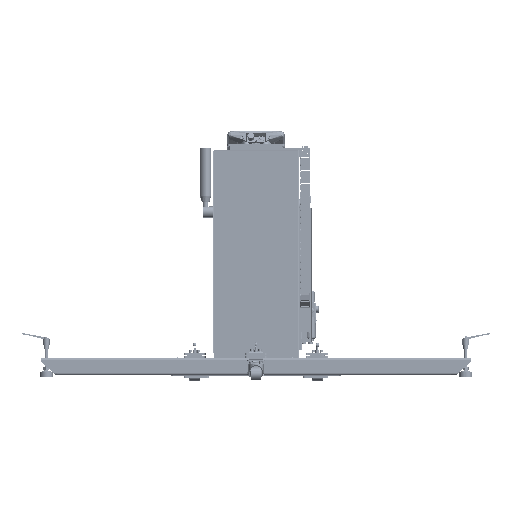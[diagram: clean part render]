
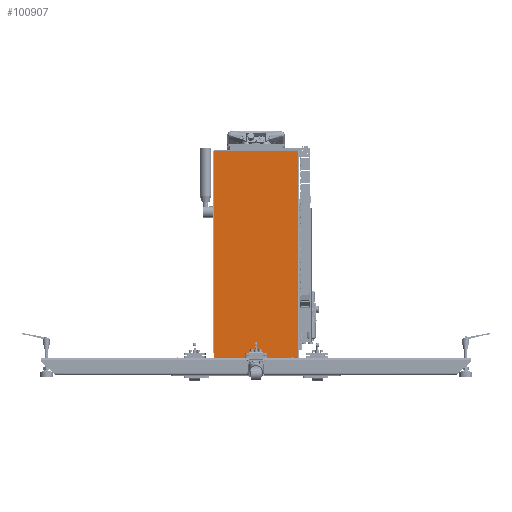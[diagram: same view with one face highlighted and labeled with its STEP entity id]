
A CAD part, top view. The second image highlights one B-rep face of the part: STEP entity #100907.
In plain terms, the highlighted planar face has unit normal (0, 0, 1).
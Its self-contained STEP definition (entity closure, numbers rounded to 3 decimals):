
#18016 = VECTOR ( 'NONE', #235171, 1000. ) ;
#18454 = EDGE_LOOP ( 'NONE', ( #184694, #188011, #187976, #132698 ) ) ;
#19883 = CARTESIAN_POINT ( 'NONE',  ( 199., 987.359, -585.707 ) ) ;
#22510 = EDGE_CURVE ( 'NONE', #207560, #129077, #189297, .T. ) ;
#27746 = DIRECTION ( 'NONE',  ( 0., 0., 1. ) ) ;
#34277 = EDGE_CURVE ( 'NONE', #186519, #231443, #86543, .T. ) ;
#50275 = CARTESIAN_POINT ( 'NONE',  ( -199., 12.159, -585.707 ) ) ;
#60784 = VECTOR ( 'NONE', #75821, 1000. ) ;
#70702 = EDGE_CURVE ( 'NONE', #207560, #186519, #189315, .T. ) ;
#75821 = DIRECTION ( 'NONE',  ( 0., -1., 0. ) ) ;
#77393 = PLANE ( 'NONE',  #155446 ) ;
#81495 = FACE_OUTER_BOUND ( 'NONE', #18454, .T. ) ;
#86543 = LINE ( 'NONE', #207510, #143482 ) ;
#95742 = CARTESIAN_POINT ( 'NONE',  ( -200., 987.359, -585.707 ) ) ;
#100907 = ADVANCED_FACE ( 'NONE', ( #81495 ), #77393, .T. ) ;
#102733 = CARTESIAN_POINT ( 'NONE',  ( 199., 985.159, -585.707 ) ) ;
#109912 = CARTESIAN_POINT ( 'NONE',  ( 199., 985.159, -585.707 ) ) ;
#118013 = DIRECTION ( 'NONE',  ( 1., 0., 0. ) ) ;
#126127 = CARTESIAN_POINT ( 'NONE',  ( -199., 985.159, -585.707 ) ) ;
#126272 = EDGE_CURVE ( 'NONE', #129077, #231443, #170490, .T. ) ;
#129077 = VERTEX_POINT ( 'NONE', #145715 ) ;
#132698 = ORIENTED_EDGE ( 'NONE', *, *, #126272, .F. ) ;
#134534 = CARTESIAN_POINT ( 'NONE',  ( -200., 12.159, -585.707 ) ) ;
#143482 = VECTOR ( 'NONE', #152383, 1000. ) ;
#145715 = CARTESIAN_POINT ( 'NONE',  ( 199., 12.159, -585.707 ) ) ;
#152383 = DIRECTION ( 'NONE',  ( 0., -1., 0. ) ) ;
#155446 = AXIS2_PLACEMENT_3D ( 'NONE', #95742, #27746, #118013 ) ;
#170490 = LINE ( 'NONE', #134534, #201959 ) ;
#184694 = ORIENTED_EDGE ( 'NONE', *, *, #22510, .F. ) ;
#186519 = VERTEX_POINT ( 'NONE', #126127 ) ;
#187976 = ORIENTED_EDGE ( 'NONE', *, *, #34277, .T. ) ;
#188011 = ORIENTED_EDGE ( 'NONE', *, *, #70702, .T. ) ;
#189297 = LINE ( 'NONE', #19883, #60784 ) ;
#189315 = LINE ( 'NONE', #109912, #18016 ) ;
#201959 = VECTOR ( 'NONE', #227085, 1000. ) ;
#207510 = CARTESIAN_POINT ( 'NONE',  ( -199., 987.359, -585.707 ) ) ;
#207560 = VERTEX_POINT ( 'NONE', #102733 ) ;
#227085 = DIRECTION ( 'NONE',  ( -1., 0., 0. ) ) ;
#231443 = VERTEX_POINT ( 'NONE', #50275 ) ;
#235171 = DIRECTION ( 'NONE',  ( -1., 0., 0. ) ) ;
